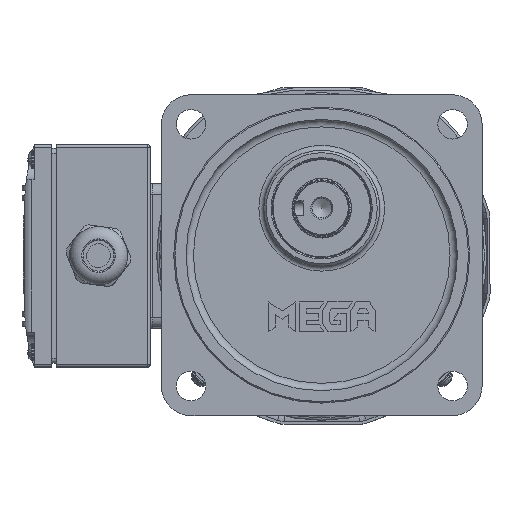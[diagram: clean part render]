
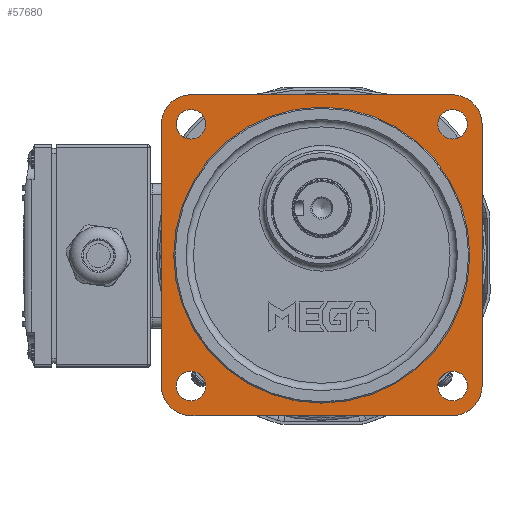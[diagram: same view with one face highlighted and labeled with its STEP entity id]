
A CAD part, top view. The second image highlights one B-rep face of the part: STEP entity #57680.
In plain terms, the highlighted planar face has unit normal (0, 0, 1).
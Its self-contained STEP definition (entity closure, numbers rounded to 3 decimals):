
#1359=FACE_BOUND('',#9058,.T.);
#1360=FACE_BOUND('',#9059,.T.);
#1361=FACE_BOUND('',#9060,.T.);
#1362=FACE_BOUND('',#9061,.T.);
#1363=FACE_BOUND('',#9062,.T.);
#2623=PLANE('',#63215);
#5499=FACE_OUTER_BOUND('',#9057,.T.);
#9057=EDGE_LOOP('',(#47382,#47383,#47384,#47385,#47386,#47387,#47388,#47389));
#9058=EDGE_LOOP('',(#47390));
#9059=EDGE_LOOP('',(#47391));
#9060=EDGE_LOOP('',(#47392));
#9061=EDGE_LOOP('',(#47393));
#9062=EDGE_LOOP('',(#47394));
#12532=CIRCLE('',#63212,60.);
#12534=CIRCLE('',#63216,12.);
#12535=CIRCLE('',#63217,12.);
#12536=CIRCLE('',#63218,12.);
#12537=CIRCLE('',#63219,12.);
#12538=CIRCLE('',#63220,6.);
#12539=CIRCLE('',#63221,6.);
#12540=CIRCLE('',#63222,6.);
#12541=CIRCLE('',#63223,6.);
#15400=LINE('',#126528,#18149);
#15401=LINE('',#126532,#18150);
#15402=LINE('',#126536,#18151);
#15403=LINE('',#126540,#18152);
#18149=VECTOR('',#76084,10.);
#18150=VECTOR('',#76087,10.);
#18151=VECTOR('',#76090,10.);
#18152=VECTOR('',#76093,10.);
#24912=VERTEX_POINT('',#126519);
#24914=VERTEX_POINT('',#126526);
#24915=VERTEX_POINT('',#126527);
#24916=VERTEX_POINT('',#126529);
#24917=VERTEX_POINT('',#126531);
#24918=VERTEX_POINT('',#126533);
#24919=VERTEX_POINT('',#126535);
#24920=VERTEX_POINT('',#126537);
#24921=VERTEX_POINT('',#126539);
#24922=VERTEX_POINT('',#126542);
#24923=VERTEX_POINT('',#126544);
#24924=VERTEX_POINT('',#126546);
#24925=VERTEX_POINT('',#126548);
#32527=EDGE_CURVE('',#24912,#24912,#12532,.T.);
#32530=EDGE_CURVE('',#24914,#24915,#15400,.T.);
#32531=EDGE_CURVE('',#24916,#24914,#12534,.T.);
#32532=EDGE_CURVE('',#24917,#24916,#15401,.T.);
#32533=EDGE_CURVE('',#24918,#24917,#12535,.T.);
#32534=EDGE_CURVE('',#24919,#24918,#15402,.T.);
#32535=EDGE_CURVE('',#24920,#24919,#12536,.T.);
#32536=EDGE_CURVE('',#24921,#24920,#15403,.T.);
#32537=EDGE_CURVE('',#24915,#24921,#12537,.T.);
#32538=EDGE_CURVE('',#24922,#24922,#12538,.T.);
#32539=EDGE_CURVE('',#24923,#24923,#12539,.T.);
#32540=EDGE_CURVE('',#24924,#24924,#12540,.T.);
#32541=EDGE_CURVE('',#24925,#24925,#12541,.T.);
#47382=ORIENTED_EDGE('',*,*,#32530,.F.);
#47383=ORIENTED_EDGE('',*,*,#32531,.F.);
#47384=ORIENTED_EDGE('',*,*,#32532,.F.);
#47385=ORIENTED_EDGE('',*,*,#32533,.F.);
#47386=ORIENTED_EDGE('',*,*,#32534,.F.);
#47387=ORIENTED_EDGE('',*,*,#32535,.F.);
#47388=ORIENTED_EDGE('',*,*,#32536,.F.);
#47389=ORIENTED_EDGE('',*,*,#32537,.F.);
#47390=ORIENTED_EDGE('',*,*,#32527,.F.);
#47391=ORIENTED_EDGE('',*,*,#32538,.F.);
#47392=ORIENTED_EDGE('',*,*,#32539,.F.);
#47393=ORIENTED_EDGE('',*,*,#32540,.F.);
#47394=ORIENTED_EDGE('',*,*,#32541,.F.);
#57680=ADVANCED_FACE('',(#5499,#1359,#1360,#1361,#1362,#1363),#2623,.T.);
#63212=AXIS2_PLACEMENT_3D('',#126520,#76075,#76076);
#63215=AXIS2_PLACEMENT_3D('',#126525,#76082,#76083);
#63216=AXIS2_PLACEMENT_3D('',#126530,#76085,#76086);
#63217=AXIS2_PLACEMENT_3D('',#126534,#76088,#76089);
#63218=AXIS2_PLACEMENT_3D('',#126538,#76091,#76092);
#63219=AXIS2_PLACEMENT_3D('',#126541,#76094,#76095);
#63220=AXIS2_PLACEMENT_3D('',#126543,#76096,#76097);
#63221=AXIS2_PLACEMENT_3D('',#126545,#76098,#76099);
#63222=AXIS2_PLACEMENT_3D('',#126547,#76100,#76101);
#63223=AXIS2_PLACEMENT_3D('',#126549,#76102,#76103);
#76075=DIRECTION('center_axis',(0.,0.,
1.));
#76076=DIRECTION('ref_axis',(-1.,0.,0.));
#76082=DIRECTION('center_axis',(0.,0.,
1.));
#76083=DIRECTION('ref_axis',(1.,0.,0.));
#76084=DIRECTION('',(0.,1.,0.));
#76085=DIRECTION('center_axis',(0.,0.,
-1.));
#76086=DIRECTION('ref_axis',(-1.,0.,0.));
#76087=DIRECTION('',(-1.,0.,0.));
#76088=DIRECTION('center_axis',(0.,0.,
-1.));
#76089=DIRECTION('ref_axis',(0.,-1.,0.));
#76090=DIRECTION('',(0.,-1.,0.));
#76091=DIRECTION('center_axis',(0.,0.,
-1.));
#76092=DIRECTION('ref_axis',(1.,0.,0.));
#76093=DIRECTION('',(1.,0.,0.));
#76094=DIRECTION('center_axis',(0.,0.,
-1.));
#76095=DIRECTION('ref_axis',(0.,1.,0.));
#76096=DIRECTION('center_axis',(0.,0.,
1.));
#76097=DIRECTION('ref_axis',(-1.,0.,0.));
#76098=DIRECTION('center_axis',(0.,0.,
1.));
#76099=DIRECTION('ref_axis',(-1.,0.,0.));
#76100=DIRECTION('center_axis',(0.,0.,
1.));
#76101=DIRECTION('ref_axis',(-1.,0.,0.));
#76102=DIRECTION('center_axis',(0.,0.,
1.));
#76103=DIRECTION('ref_axis',(-1.,0.,0.));
#126519=CARTESIAN_POINT('',(70.198,8.657,29.25));
#126520=CARTESIAN_POINT('Origin',(10.198,8.657,29.25));
#126525=CARTESIAN_POINT('Origin',(10.198,8.657,29.25));
#126526=CARTESIAN_POINT('',(-54.802,-44.343,29.25));
#126527=CARTESIAN_POINT('',(-54.802,61.657,29.25));
#126528=CARTESIAN_POINT('',(-54.802,-17.843,29.25));
#126529=CARTESIAN_POINT('',(-42.802,-56.343,29.25));
#126530=CARTESIAN_POINT('Origin',(-42.802,-44.343,29.25));
#126531=CARTESIAN_POINT('',(63.198,-56.343,29.25));
#126532=CARTESIAN_POINT('',(36.698,-56.343,29.25));
#126533=CARTESIAN_POINT('',(75.198,-44.343,29.25));
#126534=CARTESIAN_POINT('Origin',(63.198,-44.343,29.25));
#126535=CARTESIAN_POINT('',(75.198,61.657,29.25));
#126536=CARTESIAN_POINT('',(75.198,35.157,29.25));
#126537=CARTESIAN_POINT('',(63.198,73.657,29.25));
#126538=CARTESIAN_POINT('Origin',(63.198,61.657,29.25));
#126539=CARTESIAN_POINT('',(-42.802,73.657,29.25));
#126540=CARTESIAN_POINT('',(-16.302,73.657,29.25));
#126541=CARTESIAN_POINT('Origin',(-42.802,61.657,29.25));
#126542=CARTESIAN_POINT('',(-36.835,-44.376,29.25));
#126543=CARTESIAN_POINT('Origin',(-42.835,-44.376,29.25));
#126544=CARTESIAN_POINT('',(69.231,-44.376,29.25));
#126545=CARTESIAN_POINT('Origin',(63.231,-44.376,29.25));
#126546=CARTESIAN_POINT('',(69.231,61.69,29.25));
#126547=CARTESIAN_POINT('Origin',(63.231,61.69,29.25));
#126548=CARTESIAN_POINT('',(-36.835,61.69,29.25));
#126549=CARTESIAN_POINT('Origin',(-42.835,61.69,29.25));
